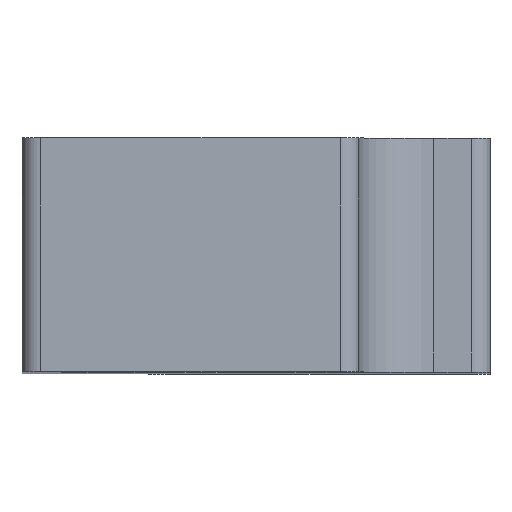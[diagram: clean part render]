
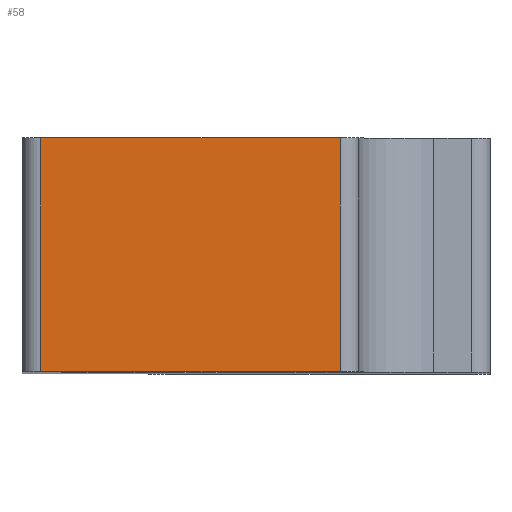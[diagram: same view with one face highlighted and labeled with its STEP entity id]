
A CAD part, top view. The second image highlights one B-rep face of the part: STEP entity #58.
In plain terms, the highlighted planar face has unit normal (0, 0, 1).
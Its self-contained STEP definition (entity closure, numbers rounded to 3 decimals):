
#58=ADVANCED_FACE('',(#259),#258,.T.);
#258=PLANE('',#497);
#259=FACE_OUTER_BOUND('',#498,.T.);
#494=CARTESIAN_POINT('',(-9.04,-5.5,3.));
#495=DIRECTION('',(0.,0.,1.));
#496=DIRECTION('',(1.,0.,0.));
#497=AXIS2_PLACEMENT_3D('',#494,#495,#496);
#498=EDGE_LOOP('',(#753,#754,#755,#756));
#753=ORIENTED_EDGE('',*,*,#825,.F.);
#754=ORIENTED_EDGE('',*,*,#870,.F.);
#755=ORIENTED_EDGE('',*,*,#821,.T.);
#756=ORIENTED_EDGE('',*,*,#869,.T.);
#821=EDGE_CURVE('',#886,#984,#991,.T.);
#825=EDGE_CURVE('',#1012,#1019,#1020,.T.);
#869=EDGE_CURVE('',#984,#1019,#1312,.T.);
#870=EDGE_CURVE('',#886,#1012,#1318,.T.);
#886=VERTEX_POINT('',#1413);
#984=VERTEX_POINT('',#1476);
#991=LINE('',#1481,#1482);
#1012=VERTEX_POINT('',#1495);
#1019=VERTEX_POINT('',#1500);
#1020=LINE('',#1501,#1502);
#1312=LINE('',#1683,#1684);
#1318=LINE('',#1686,#1687);
#1413=CARTESIAN_POINT('',(-2.,0.,3.));
#1476=CARTESIAN_POINT('',(-8.4,0.,3.));
#1481=CARTESIAN_POINT('',(-2.,0.,3.));
#1482=VECTOR('',#1483,6.4);
#1483=DIRECTION('',(-1.,0.,0.));
#1495=CARTESIAN_POINT('',(-2.,-5.,3.));
#1500=CARTESIAN_POINT('',(-8.4,-5.,3.));
#1501=CARTESIAN_POINT('',(-2.,-5.,3.));
#1502=VECTOR('',#1503,6.4);
#1503=DIRECTION('',(-1.,0.,0.));
#1683=CARTESIAN_POINT('',(-8.4,0.,3.));
#1684=VECTOR('',#1685,5.);
#1685=DIRECTION('',(0.,-1.,0.));
#1686=CARTESIAN_POINT('',(-2.,0.,3.));
#1687=VECTOR('',#1688,5.);
#1688=DIRECTION('',(0.,-1.,0.));
